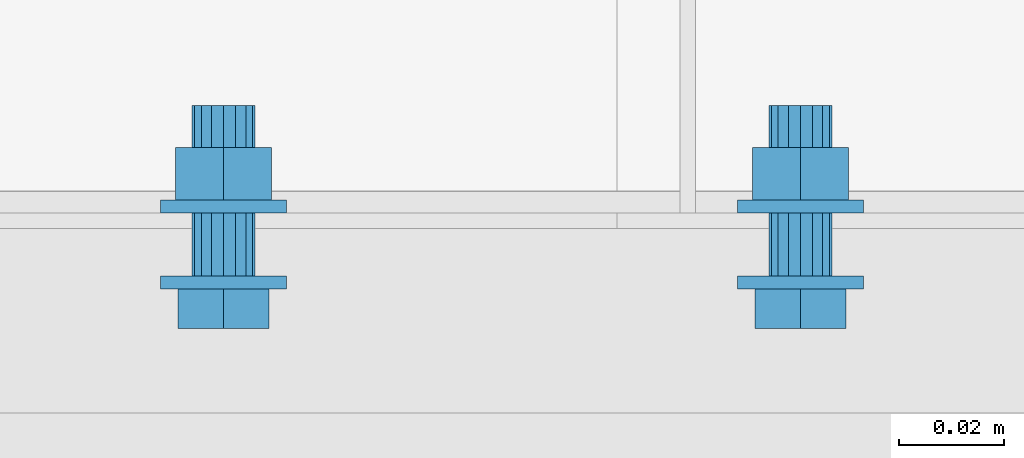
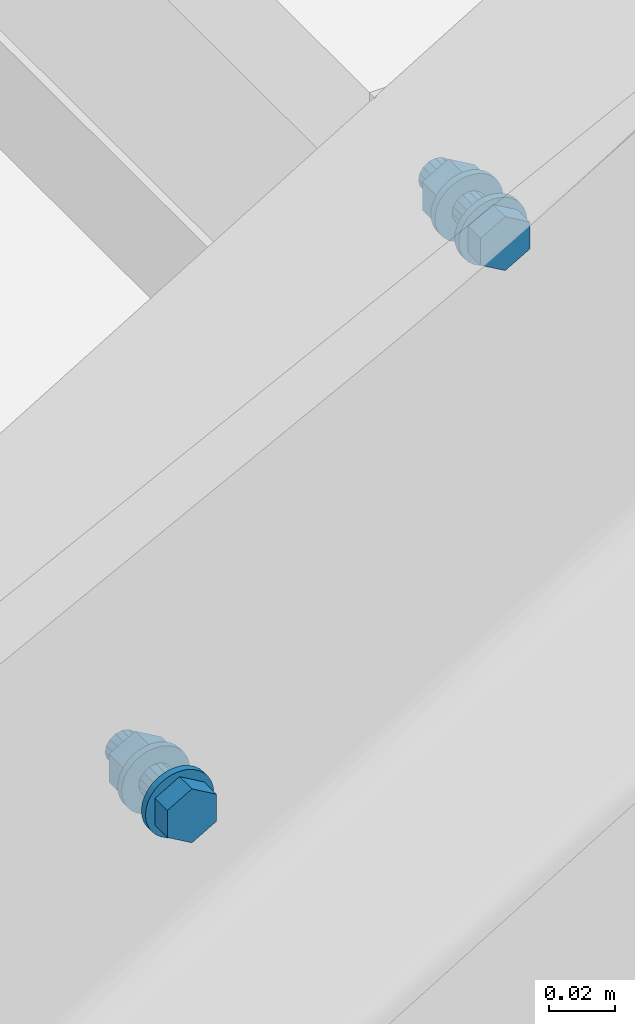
# One storey, part 268 of 410: 2 mechanical fasteners.
"""IFC2X3 building model written with IfcOpenShell, lengths in millimetres."""

from ifc_helpers import new_model, entity, si_unit, converted_unit, origin_with_axes, place, context, project, spatial, faceted_brep, element, save


model = new_model("IFC2X3")

# Units and contexts
model_context = context("Model", 3, precision=1e-09, world=origin_with_axes())
ifc_project = project(units=[si_unit("LENGTHUNIT", "METRE", prefix="MILLI"), si_unit("AREAUNIT", "SQUARE_METRE"), si_unit("VOLUMEUNIT", "CUBIC_METRE"), converted_unit("PLANEANGLEUNIT", "DEGREE", entity("IfcPlaneAngleMeasure", 0.01745329), si_unit("PLANEANGLEUNIT", "RADIAN"), dimensions=[0, 0, 0, 0, 0, 0, 0])], contexts=[model_context])

# Site, building, storey
site_placement = place(None, origin_with_axes())
site = spatial("IfcSite", under=ifc_project, at=site_placement, Name="mKR Teilneubau & Sanierung BA1 - Ostfildern", CompositionType="ELEMENT")
building_placement = place(site_placement, origin_with_axes())
building = spatial("IfcBuilding", under=site, at=building_placement, Name="Struktur 1", CompositionType="ELEMENT")
storey_placement = place(building_placement, origin_with_axes())
storey = spatial("IfcBuildingStorey", under=building, at=storey_placement, Name="Default Storey", CompositionType="ELEMENT", Elevation=0.0)

# Mechanical fasteners
mechanical_fastener_1_placement = place(None, origin_with_axes())
element("IfcMechanicalFastener", 1, at=mechanical_fastener_1_placement, inside=storey, ObjectType="Bolt", NominalDiameter=12.0, NominalLength=35.0, context=model_context, shape_type="Brep", body=[
    faceted_brep([(528.0, 15508.499999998, 1162.3913045), (528.0, 15510.999999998, 1162.3913045), (528.230576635, 15510.999999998, 1160.050220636), (528.230576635, 15508.499999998, 1160.050220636), (528.91344561, 15510.999999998, 1157.799103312), (528.91344561, 15508.499999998, 1157.799103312), (530.022364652, 15510.999999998, 1155.724461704), (530.022364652, 15508.499999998, 1155.724461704), (531.514718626, 15510.999999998, 1153.906023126), (531.514718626, 15508.499999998, 1153.906023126), (533.333157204, 15510.999999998, 1152.413669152), (533.333157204, 15508.499999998, 1152.413669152), (535.407798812, 15510.999999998, 1151.30475011), (535.407798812, 15508.499999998, 1151.30475011), (537.658916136, 15510.999999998, 1150.621881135), (537.658916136, 15508.499999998, 1150.621881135), (540.0, 15510.999999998, 1150.3913045), (540.0, 15508.499999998, 1150.3913045), (542.341083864, 15510.999999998, 1150.621881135), (542.341083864, 15508.499999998, 1150.621881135), (544.592201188, 15510.999999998, 1151.30475011), (544.592201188, 15508.499999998, 1151.30475011), (546.666842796, 15510.999999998, 1152.413669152), (546.666842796, 15508.499999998, 1152.413669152), (548.485281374, 15510.999999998, 1153.906023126), (548.485281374, 15508.499999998, 1153.906023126), (549.977635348, 15510.999999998, 1155.724461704), (549.977635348, 15508.499999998, 1155.724461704), (551.08655439, 15510.999999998, 1157.799103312), (551.08655439, 15508.499999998, 1157.799103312), (551.769423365, 15510.999999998, 1160.050220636), (551.769423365, 15508.499999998, 1160.050220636), (552.0, 15510.999999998, 1162.3913045), (552.0, 15508.499999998, 1162.3913045), (551.769423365, 15510.999999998, 1164.732388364), (551.769423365, 15508.499999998, 1164.732388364), (551.08655439, 15510.999999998, 1166.983505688), (551.08655439, 15508.499999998, 1166.983505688), (549.977635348, 15510.999999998, 1169.058147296), (549.977635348, 15508.499999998, 1169.058147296), (548.485281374, 15510.999999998, 1170.876585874), (548.485281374, 15508.499999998, 1170.876585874), (546.666842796, 15510.999999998, 1172.368939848), (546.666842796, 15508.499999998, 1172.368939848), (544.592201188, 15510.999999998, 1173.47785889), (544.592201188, 15508.499999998, 1173.47785889), (542.341083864, 15510.999999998, 1174.160727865), (542.341083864, 15508.499999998, 1174.160727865), (540.0, 15510.999999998, 1174.3913045), (540.0, 15508.499999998, 1174.3913045), (537.658916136, 15510.999999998, 1174.160727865), (537.658916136, 15508.499999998, 1174.160727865), (535.407798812, 15510.999999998, 1173.47785889), (535.407798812, 15508.499999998, 1173.47785889), (533.333157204, 15510.999999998, 1172.368939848), (533.333157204, 15508.499999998, 1172.368939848), (531.514718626, 15510.999999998, 1170.876585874), (531.514718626, 15508.499999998, 1170.876585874), (530.022364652, 15510.999999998, 1169.058147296), (530.022364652, 15508.499999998, 1169.058147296), (528.91344561, 15510.999999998, 1166.983505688), (528.91344561, 15508.499999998, 1166.983505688), (528.230576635, 15510.999999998, 1164.732388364), (528.230576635, 15508.499999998, 1164.732388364)], [[[0, 1, 2, 3]], [[3, 2, 4, 5]], [[5, 4, 6, 7]], [[7, 6, 8, 9]], [[9, 8, 10, 11]], [[11, 10, 12, 13]], [[13, 12, 14, 15]], [[15, 14, 16, 17]], [[17, 16, 18, 19]], [[19, 18, 20, 21]], [[21, 20, 22, 23]], [[23, 22, 24, 25]], [[25, 24, 26, 27]], [[27, 26, 28, 29]], [[29, 28, 30, 31]], [[31, 30, 32, 33]], [[33, 32, 34, 35]], [[35, 34, 36, 37]], [[37, 36, 38, 39]], [[39, 38, 40, 41]], [[41, 40, 42, 43]], [[43, 42, 44, 45]], [[45, 44, 46, 47]], [[47, 46, 48, 49]], [[49, 48, 50, 51]], [[51, 50, 52, 53]], [[53, 52, 54, 55]], [[55, 54, 56, 57]], [[57, 56, 58, 59]], [[59, 58, 60, 61]], [[61, 60, 62, 63]], [[63, 62, 1, 0]], [[0, 3, 5, 7, 9, 11, 13, 15, 17, 19, 21, 23, 25, 27, 29, 31, 33, 35, 37, 39, 41, 43, 45, 47, 49, 51, 53, 55, 57, 59, 61, 63]], [[1, 62, 60, 58, 56, 54, 52, 50, 48, 46, 44, 42, 40, 38, 36, 34, 32, 30, 28, 26, 24, 22, 20, 18, 16, 14, 12, 10, 8, 6, 4, 2]]]),
    faceted_brep([(548.673244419, 15508.499999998, 1157.3838045), (548.673244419, 15500.999999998, 1157.3838045), (540.0, 15500.999999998, 1152.3763045), (540.0, 15508.499999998, 1152.3763045), (531.326755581, 15500.999999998, 1157.3838045), (531.326755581, 15508.499999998, 1157.3838045), (531.326755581, 15500.999999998, 1167.3988045), (531.326755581, 15508.499999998, 1167.3988045), (540.0, 15500.999999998, 1172.4063045), (540.0, 15508.499999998, 1172.4063045), (548.673244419, 15500.999999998, 1167.3988045), (548.673244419, 15508.499999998, 1167.3988045)], [[[0, 1, 2, 3]], [[3, 2, 4, 5]], [[5, 4, 6, 7]], [[7, 6, 8, 9]], [[9, 8, 10, 11]], [[11, 10, 1, 0]], [[4, 2, 1, 10, 8, 6]], [[0, 3, 5, 7, 9, 11]]]),
    faceted_brep([(534.0, 15510.999999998, 1162.3913045), (534.0, 15522.999999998, 1162.3913045), (534.456722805, 15522.999999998, 1160.095203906), (534.456722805, 15510.999999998, 1160.095203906), (535.757359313, 15522.999999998, 1158.148663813), (535.757359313, 15510.999999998, 1158.148663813), (537.703899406, 15522.999999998, 1156.848027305), (537.703899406, 15510.999999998, 1156.848027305), (540.0, 15522.999999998, 1156.3913045), (540.0, 15510.999999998, 1156.3913045), (542.296100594, 15522.999999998, 1156.848027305), (542.296100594, 15510.999999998, 1156.848027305), (544.242640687, 15522.999999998, 1158.148663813), (544.242640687, 15510.999999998, 1158.148663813), (545.543277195, 15522.999999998, 1160.095203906), (545.543277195, 15510.999999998, 1160.095203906), (546.0, 15522.999999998, 1162.3913045), (546.0, 15510.999999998, 1162.3913045), (545.543277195, 15522.999999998, 1164.687405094), (545.543277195, 15510.999999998, 1164.687405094), (544.242640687, 15522.999999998, 1166.633945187), (544.242640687, 15510.999999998, 1166.633945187), (542.296100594, 15522.999999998, 1167.934581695), (542.296100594, 15510.999999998, 1167.934581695), (540.0, 15522.999999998, 1168.3913045), (540.0, 15510.999999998, 1168.3913045), (537.703899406, 15522.999999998, 1167.934581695), (537.703899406, 15510.999999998, 1167.934581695), (535.757359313, 15522.999999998, 1166.633945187), (535.757359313, 15510.999999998, 1166.633945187), (534.456722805, 15522.999999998, 1164.687405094), (534.456722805, 15510.999999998, 1164.687405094)], [[[0, 1, 2, 3]], [[3, 2, 4, 5]], [[5, 4, 6, 7]], [[7, 6, 8, 9]], [[9, 8, 10, 11]], [[11, 10, 12, 13]], [[13, 12, 14, 15]], [[15, 14, 16, 17]], [[17, 16, 18, 19]], [[19, 18, 20, 21]], [[21, 20, 22, 23]], [[23, 22, 24, 25]], [[25, 24, 26, 27]], [[27, 26, 28, 29]], [[29, 28, 30, 31]], [[31, 30, 1, 0]], [[0, 3, 5, 7, 9, 11, 13, 15, 17, 19, 21, 23, 25, 27, 29, 31]], [[1, 30, 28, 26, 24, 22, 20, 18, 16, 14, 12, 10, 8, 6, 4, 2]]]),
    faceted_brep([(528.0, 15522.999999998, 1162.3913045), (528.0, 15525.499999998, 1162.3913045), (528.230576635, 15525.499999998, 1160.050220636), (528.230576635, 15522.999999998, 1160.050220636), (528.91344561, 15525.499999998, 1157.799103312), (528.91344561, 15522.999999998, 1157.799103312), (530.022364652, 15525.499999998, 1155.724461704), (530.022364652, 15522.999999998, 1155.724461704), (531.514718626, 15525.499999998, 1153.906023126), (531.514718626, 15522.999999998, 1153.906023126), (533.333157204, 15525.499999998, 1152.413669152), (533.333157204, 15522.999999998, 1152.413669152), (535.407798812, 15525.499999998, 1151.30475011), (535.407798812, 15522.999999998, 1151.30475011), (537.658916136, 15525.499999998, 1150.621881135), (537.658916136, 15522.999999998, 1150.621881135), (540.0, 15525.499999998, 1150.3913045), (540.0, 15522.999999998, 1150.3913045), (542.341083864, 15525.499999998, 1150.621881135), (542.341083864, 15522.999999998, 1150.621881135), (544.592201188, 15525.499999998, 1151.30475011), (544.592201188, 15522.999999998, 1151.30475011), (546.666842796, 15525.499999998, 1152.413669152), (546.666842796, 15522.999999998, 1152.413669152), (548.485281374, 15525.499999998, 1153.906023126), (548.485281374, 15522.999999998, 1153.906023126), (549.977635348, 15525.499999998, 1155.724461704), (549.977635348, 15522.999999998, 1155.724461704), (551.08655439, 15525.499999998, 1157.799103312), (551.08655439, 15522.999999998, 1157.799103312), (551.769423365, 15525.499999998, 1160.050220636), (551.769423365, 15522.999999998, 1160.050220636), (552.0, 15525.499999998, 1162.3913045), (552.0, 15522.999999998, 1162.3913045), (551.769423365, 15525.499999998, 1164.732388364), (551.769423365, 15522.999999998, 1164.732388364), (551.08655439, 15525.499999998, 1166.983505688), (551.08655439, 15522.999999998, 1166.983505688), (549.977635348, 15525.499999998, 1169.058147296), (549.977635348, 15522.999999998, 1169.058147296), (548.485281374, 15525.499999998, 1170.876585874), (548.485281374, 15522.999999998, 1170.876585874), (546.666842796, 15525.499999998, 1172.368939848), (546.666842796, 15522.999999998, 1172.368939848), (544.592201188, 15525.499999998, 1173.47785889), (544.592201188, 15522.999999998, 1173.47785889), (542.341083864, 15525.499999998, 1174.160727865), (542.341083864, 15522.999999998, 1174.160727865), (540.0, 15525.499999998, 1174.3913045), (540.0, 15522.999999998, 1174.3913045), (537.658916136, 15525.499999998, 1174.160727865), (537.658916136, 15522.999999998, 1174.160727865), (535.407798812, 15525.499999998, 1173.47785889), (535.407798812, 15522.999999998, 1173.47785889), (533.333157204, 15525.499999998, 1172.368939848), (533.333157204, 15522.999999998, 1172.368939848), (531.514718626, 15525.499999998, 1170.876585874), (531.514718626, 15522.999999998, 1170.876585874), (530.022364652, 15525.499999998, 1169.058147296), (530.022364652, 15522.999999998, 1169.058147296), (528.91344561, 15525.499999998, 1166.983505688), (528.91344561, 15522.999999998, 1166.983505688), (528.230576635, 15525.499999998, 1164.732388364), (528.230576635, 15522.999999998, 1164.732388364)], [[[0, 1, 2, 3]], [[3, 2, 4, 5]], [[5, 4, 6, 7]], [[7, 6, 8, 9]], [[9, 8, 10, 11]], [[11, 10, 12, 13]], [[13, 12, 14, 15]], [[15, 14, 16, 17]], [[17, 16, 18, 19]], [[19, 18, 20, 21]], [[21, 20, 22, 23]], [[23, 22, 24, 25]], [[25, 24, 26, 27]], [[27, 26, 28, 29]], [[29, 28, 30, 31]], [[31, 30, 32, 33]], [[33, 32, 34, 35]], [[35, 34, 36, 37]], [[37, 36, 38, 39]], [[39, 38, 40, 41]], [[41, 40, 42, 43]], [[43, 42, 44, 45]], [[45, 44, 46, 47]], [[47, 46, 48, 49]], [[49, 48, 50, 51]], [[51, 50, 52, 53]], [[53, 52, 54, 55]], [[55, 54, 56, 57]], [[57, 56, 58, 59]], [[59, 58, 60, 61]], [[61, 60, 62, 63]], [[63, 62, 1, 0]], [[0, 3, 5, 7, 9, 11, 13, 15, 17, 19, 21, 23, 25, 27, 29, 31, 33, 35, 37, 39, 41, 43, 45, 47, 49, 51, 53, 55, 57, 59, 61, 63]], [[1, 62, 60, 58, 56, 54, 52, 50, 48, 46, 44, 42, 40, 38, 36, 34, 32, 30, 28, 26, 24, 22, 20, 18, 16, 14, 12, 10, 8, 6, 4, 2]]]),
    faceted_brep([(549.13656801, 15535.499999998, 1157.1163045), (549.13656801, 15525.499999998, 1157.1163045), (540.0, 15525.499999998, 1151.8413045), (540.0, 15535.499999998, 1151.8413045), (530.86343199, 15525.499999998, 1157.1163045), (530.86343199, 15535.499999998, 1157.1163045), (530.86343199, 15525.499999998, 1167.6663045), (530.86343199, 15535.499999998, 1167.6663045), (540.0, 15525.499999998, 1172.9413045), (540.0, 15535.499999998, 1172.9413045), (549.13656801, 15525.499999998, 1167.6663045), (549.13656801, 15535.499999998, 1167.6663045)], [[[0, 1, 2, 3]], [[3, 2, 4, 5]], [[5, 4, 6, 7]], [[7, 6, 8, 9]], [[9, 8, 10, 11]], [[11, 10, 1, 0]], [[4, 2, 1, 10, 8, 6]], [[0, 3, 5, 7, 9, 11]]]),
    faceted_brep([(534.0, 15535.499999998, 1162.3913045), (534.0, 15543.499999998, 1162.3913045), (534.456722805, 15543.499999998, 1160.095203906), (534.456722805, 15535.499999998, 1160.095203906), (535.757359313, 15543.499999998, 1158.148663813), (535.757359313, 15535.499999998, 1158.148663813), (537.703899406, 15543.499999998, 1156.848027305), (537.703899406, 15535.499999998, 1156.848027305), (540.0, 15543.499999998, 1156.3913045), (540.0, 15535.499999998, 1156.3913045), (542.296100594, 15543.499999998, 1156.848027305), (542.296100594, 15535.499999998, 1156.848027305), (544.242640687, 15543.499999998, 1158.148663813), (544.242640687, 15535.499999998, 1158.148663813), (545.543277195, 15543.499999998, 1160.095203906), (545.543277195, 15535.499999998, 1160.095203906), (546.0, 15543.499999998, 1162.3913045), (546.0, 15535.499999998, 1162.3913045), (545.543277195, 15543.499999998, 1164.687405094), (545.543277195, 15535.499999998, 1164.687405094), (544.242640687, 15543.499999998, 1166.633945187), (544.242640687, 15535.499999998, 1166.633945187), (542.296100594, 15543.499999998, 1167.934581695), (542.296100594, 15535.499999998, 1167.934581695), (540.0, 15543.499999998, 1168.3913045), (540.0, 15535.499999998, 1168.3913045), (537.703899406, 15543.499999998, 1167.934581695), (537.703899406, 15535.499999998, 1167.934581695), (535.757359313, 15543.499999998, 1166.633945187), (535.757359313, 15535.499999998, 1166.633945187), (534.456722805, 15543.499999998, 1164.687405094), (534.456722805, 15535.499999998, 1164.687405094)], [[[0, 1, 2, 3]], [[3, 2, 4, 5]], [[5, 4, 6, 7]], [[7, 6, 8, 9]], [[9, 8, 10, 11]], [[11, 10, 12, 13]], [[13, 12, 14, 15]], [[15, 14, 16, 17]], [[17, 16, 18, 19]], [[19, 18, 20, 21]], [[21, 20, 22, 23]], [[23, 22, 24, 25]], [[25, 24, 26, 27]], [[27, 26, 28, 29]], [[29, 28, 30, 31]], [[31, 30, 1, 0]], [[0, 3, 5, 7, 9, 11, 13, 15, 17, 19, 21, 23, 25, 27, 29, 31]], [[1, 30, 28, 26, 24, 22, 20, 18, 16, 14, 12, 10, 8, 6, 4, 2]]]),
])
mechanical_fastener_2_placement = place(None, origin_with_axes())
element("IfcMechanicalFastener", 2, at=mechanical_fastener_2_placement, inside=storey, ObjectType="Bolt", NominalDiameter=12.0, NominalLength=35.0, context=model_context, shape_type="Brep", body=[
    faceted_brep([(638.0, 15508.499999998, 1336.304348), (638.0, 15510.999999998, 1336.304348), (638.230576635, 15510.999999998, 1333.963264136), (638.230576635, 15508.499999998, 1333.963264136), (638.91344561, 15510.999999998, 1331.712146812), (638.91344561, 15508.499999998, 1331.712146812), (640.022364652, 15510.999999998, 1329.637505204), (640.022364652, 15508.499999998, 1329.637505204), (641.514718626, 15510.999999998, 1327.819066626), (641.514718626, 15508.499999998, 1327.819066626), (643.333157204, 15510.999999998, 1326.326712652), (643.333157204, 15508.499999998, 1326.326712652), (645.407798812, 15510.999999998, 1325.21779361), (645.407798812, 15508.499999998, 1325.21779361), (647.658916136, 15510.999999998, 1324.534924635), (647.658916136, 15508.499999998, 1324.534924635), (650.0, 15510.999999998, 1324.304348), (650.0, 15508.499999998, 1324.304348), (652.341083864, 15510.999999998, 1324.534924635), (652.341083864, 15508.499999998, 1324.534924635), (654.592201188, 15510.999999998, 1325.21779361), (654.592201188, 15508.499999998, 1325.21779361), (656.666842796, 15510.999999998, 1326.326712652), (656.666842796, 15508.499999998, 1326.326712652), (658.485281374, 15510.999999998, 1327.819066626), (658.485281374, 15508.499999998, 1327.819066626), (659.977635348, 15510.999999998, 1329.637505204), (659.977635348, 15508.499999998, 1329.637505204), (661.08655439, 15510.999999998, 1331.712146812), (661.08655439, 15508.499999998, 1331.712146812), (661.769423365, 15510.999999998, 1333.963264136), (661.769423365, 15508.499999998, 1333.963264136), (662.0, 15510.999999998, 1336.304348), (662.0, 15508.499999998, 1336.304348), (661.769423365, 15510.999999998, 1338.645431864), (661.769423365, 15508.499999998, 1338.645431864), (661.08655439, 15510.999999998, 1340.896549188), (661.08655439, 15508.499999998, 1340.896549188), (659.977635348, 15510.999999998, 1342.971190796), (659.977635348, 15508.499999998, 1342.971190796), (658.485281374, 15510.999999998, 1344.789629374), (658.485281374, 15508.499999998, 1344.789629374), (656.666842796, 15510.999999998, 1346.281983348), (656.666842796, 15508.499999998, 1346.281983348), (654.592201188, 15510.999999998, 1347.39090239), (654.592201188, 15508.499999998, 1347.39090239), (652.341083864, 15510.999999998, 1348.073771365), (652.341083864, 15508.499999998, 1348.073771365), (650.0, 15510.999999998, 1348.304348), (650.0, 15508.499999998, 1348.304348), (647.658916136, 15510.999999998, 1348.073771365), (647.658916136, 15508.499999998, 1348.073771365), (645.407798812, 15510.999999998, 1347.39090239), (645.407798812, 15508.499999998, 1347.39090239), (643.333157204, 15510.999999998, 1346.281983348), (643.333157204, 15508.499999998, 1346.281983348), (641.514718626, 15510.999999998, 1344.789629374), (641.514718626, 15508.499999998, 1344.789629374), (640.022364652, 15510.999999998, 1342.971190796), (640.022364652, 15508.499999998, 1342.971190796), (638.91344561, 15510.999999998, 1340.896549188), (638.91344561, 15508.499999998, 1340.896549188), (638.230576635, 15510.999999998, 1338.645431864), (638.230576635, 15508.499999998, 1338.645431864)], [[[0, 1, 2, 3]], [[3, 2, 4, 5]], [[5, 4, 6, 7]], [[7, 6, 8, 9]], [[9, 8, 10, 11]], [[11, 10, 12, 13]], [[13, 12, 14, 15]], [[15, 14, 16, 17]], [[17, 16, 18, 19]], [[19, 18, 20, 21]], [[21, 20, 22, 23]], [[23, 22, 24, 25]], [[25, 24, 26, 27]], [[27, 26, 28, 29]], [[29, 28, 30, 31]], [[31, 30, 32, 33]], [[33, 32, 34, 35]], [[35, 34, 36, 37]], [[37, 36, 38, 39]], [[39, 38, 40, 41]], [[41, 40, 42, 43]], [[43, 42, 44, 45]], [[45, 44, 46, 47]], [[47, 46, 48, 49]], [[49, 48, 50, 51]], [[51, 50, 52, 53]], [[53, 52, 54, 55]], [[55, 54, 56, 57]], [[57, 56, 58, 59]], [[59, 58, 60, 61]], [[61, 60, 62, 63]], [[63, 62, 1, 0]], [[0, 3, 5, 7, 9, 11, 13, 15, 17, 19, 21, 23, 25, 27, 29, 31, 33, 35, 37, 39, 41, 43, 45, 47, 49, 51, 53, 55, 57, 59, 61, 63]], [[1, 62, 60, 58, 56, 54, 52, 50, 48, 46, 44, 42, 40, 38, 36, 34, 32, 30, 28, 26, 24, 22, 20, 18, 16, 14, 12, 10, 8, 6, 4, 2]]]),
    faceted_brep([(658.673244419, 15508.499999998, 1331.296848), (658.673244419, 15500.999999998, 1331.296848), (650.0, 15500.999999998, 1326.289348), (650.0, 15508.499999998, 1326.289348), (641.326755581, 15500.999999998, 1331.296848), (641.326755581, 15508.499999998, 1331.296848), (641.326755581, 15500.999999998, 1341.311848), (641.326755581, 15508.499999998, 1341.311848), (650.0, 15500.999999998, 1346.319348), (650.0, 15508.499999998, 1346.319348), (658.673244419, 15500.999999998, 1341.311848), (658.673244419, 15508.499999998, 1341.311848)], [[[0, 1, 2, 3]], [[3, 2, 4, 5]], [[5, 4, 6, 7]], [[7, 6, 8, 9]], [[9, 8, 10, 11]], [[11, 10, 1, 0]], [[4, 2, 1, 10, 8, 6]], [[0, 3, 5, 7, 9, 11]]]),
    faceted_brep([(644.0, 15510.999999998, 1336.304348), (644.0, 15522.999999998, 1336.304348), (644.456722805, 15522.999999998, 1334.008247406), (644.456722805, 15510.999999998, 1334.008247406), (645.757359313, 15522.999999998, 1332.061707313), (645.757359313, 15510.999999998, 1332.061707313), (647.703899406, 15522.999999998, 1330.761070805), (647.703899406, 15510.999999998, 1330.761070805), (650.0, 15522.999999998, 1330.304348), (650.0, 15510.999999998, 1330.304348), (652.296100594, 15522.999999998, 1330.761070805), (652.296100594, 15510.999999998, 1330.761070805), (654.242640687, 15522.999999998, 1332.061707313), (654.242640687, 15510.999999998, 1332.061707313), (655.543277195, 15522.999999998, 1334.008247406), (655.543277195, 15510.999999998, 1334.008247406), (656.0, 15522.999999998, 1336.304348), (656.0, 15510.999999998, 1336.304348), (655.543277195, 15522.999999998, 1338.600448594), (655.543277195, 15510.999999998, 1338.600448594), (654.242640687, 15522.999999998, 1340.546988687), (654.242640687, 15510.999999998, 1340.546988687), (652.296100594, 15522.999999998, 1341.847625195), (652.296100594, 15510.999999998, 1341.847625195), (650.0, 15522.999999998, 1342.304348), (650.0, 15510.999999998, 1342.304348), (647.703899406, 15522.999999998, 1341.847625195), (647.703899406, 15510.999999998, 1341.847625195), (645.757359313, 15522.999999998, 1340.546988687), (645.757359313, 15510.999999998, 1340.546988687), (644.456722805, 15522.999999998, 1338.600448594), (644.456722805, 15510.999999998, 1338.600448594)], [[[0, 1, 2, 3]], [[3, 2, 4, 5]], [[5, 4, 6, 7]], [[7, 6, 8, 9]], [[9, 8, 10, 11]], [[11, 10, 12, 13]], [[13, 12, 14, 15]], [[15, 14, 16, 17]], [[17, 16, 18, 19]], [[19, 18, 20, 21]], [[21, 20, 22, 23]], [[23, 22, 24, 25]], [[25, 24, 26, 27]], [[27, 26, 28, 29]], [[29, 28, 30, 31]], [[31, 30, 1, 0]], [[0, 3, 5, 7, 9, 11, 13, 15, 17, 19, 21, 23, 25, 27, 29, 31]], [[1, 30, 28, 26, 24, 22, 20, 18, 16, 14, 12, 10, 8, 6, 4, 2]]]),
    faceted_brep([(638.0, 15522.999999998, 1336.304348), (638.0, 15525.499999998, 1336.304348), (638.230576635, 15525.499999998, 1333.963264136), (638.230576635, 15522.999999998, 1333.963264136), (638.91344561, 15525.499999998, 1331.712146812), (638.91344561, 15522.999999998, 1331.712146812), (640.022364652, 15525.499999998, 1329.637505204), (640.022364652, 15522.999999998, 1329.637505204), (641.514718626, 15525.499999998, 1327.819066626), (641.514718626, 15522.999999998, 1327.819066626), (643.333157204, 15525.499999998, 1326.326712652), (643.333157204, 15522.999999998, 1326.326712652), (645.407798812, 15525.499999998, 1325.21779361), (645.407798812, 15522.999999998, 1325.21779361), (647.658916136, 15525.499999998, 1324.534924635), (647.658916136, 15522.999999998, 1324.534924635), (650.0, 15525.499999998, 1324.304348), (650.0, 15522.999999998, 1324.304348), (652.341083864, 15525.499999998, 1324.534924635), (652.341083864, 15522.999999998, 1324.534924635), (654.592201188, 15525.499999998, 1325.21779361), (654.592201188, 15522.999999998, 1325.21779361), (656.666842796, 15525.499999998, 1326.326712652), (656.666842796, 15522.999999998, 1326.326712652), (658.485281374, 15525.499999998, 1327.819066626), (658.485281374, 15522.999999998, 1327.819066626), (659.977635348, 15525.499999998, 1329.637505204), (659.977635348, 15522.999999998, 1329.637505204), (661.08655439, 15525.499999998, 1331.712146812), (661.08655439, 15522.999999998, 1331.712146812), (661.769423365, 15525.499999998, 1333.963264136), (661.769423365, 15522.999999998, 1333.963264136), (662.0, 15525.499999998, 1336.304348), (662.0, 15522.999999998, 1336.304348), (661.769423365, 15525.499999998, 1338.645431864), (661.769423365, 15522.999999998, 1338.645431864), (661.08655439, 15525.499999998, 1340.896549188), (661.08655439, 15522.999999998, 1340.896549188), (659.977635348, 15525.499999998, 1342.971190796), (659.977635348, 15522.999999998, 1342.971190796), (658.485281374, 15525.499999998, 1344.789629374), (658.485281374, 15522.999999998, 1344.789629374), (656.666842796, 15525.499999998, 1346.281983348), (656.666842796, 15522.999999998, 1346.281983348), (654.592201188, 15525.499999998, 1347.39090239), (654.592201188, 15522.999999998, 1347.39090239), (652.341083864, 15525.499999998, 1348.073771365), (652.341083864, 15522.999999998, 1348.073771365), (650.0, 15525.499999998, 1348.304348), (650.0, 15522.999999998, 1348.304348), (647.658916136, 15525.499999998, 1348.073771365), (647.658916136, 15522.999999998, 1348.073771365), (645.407798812, 15525.499999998, 1347.39090239), (645.407798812, 15522.999999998, 1347.39090239), (643.333157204, 15525.499999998, 1346.281983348), (643.333157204, 15522.999999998, 1346.281983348), (641.514718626, 15525.499999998, 1344.789629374), (641.514718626, 15522.999999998, 1344.789629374), (640.022364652, 15525.499999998, 1342.971190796), (640.022364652, 15522.999999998, 1342.971190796), (638.91344561, 15525.499999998, 1340.896549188), (638.91344561, 15522.999999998, 1340.896549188), (638.230576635, 15525.499999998, 1338.645431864), (638.230576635, 15522.999999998, 1338.645431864)], [[[0, 1, 2, 3]], [[3, 2, 4, 5]], [[5, 4, 6, 7]], [[7, 6, 8, 9]], [[9, 8, 10, 11]], [[11, 10, 12, 13]], [[13, 12, 14, 15]], [[15, 14, 16, 17]], [[17, 16, 18, 19]], [[19, 18, 20, 21]], [[21, 20, 22, 23]], [[23, 22, 24, 25]], [[25, 24, 26, 27]], [[27, 26, 28, 29]], [[29, 28, 30, 31]], [[31, 30, 32, 33]], [[33, 32, 34, 35]], [[35, 34, 36, 37]], [[37, 36, 38, 39]], [[39, 38, 40, 41]], [[41, 40, 42, 43]], [[43, 42, 44, 45]], [[45, 44, 46, 47]], [[47, 46, 48, 49]], [[49, 48, 50, 51]], [[51, 50, 52, 53]], [[53, 52, 54, 55]], [[55, 54, 56, 57]], [[57, 56, 58, 59]], [[59, 58, 60, 61]], [[61, 60, 62, 63]], [[63, 62, 1, 0]], [[0, 3, 5, 7, 9, 11, 13, 15, 17, 19, 21, 23, 25, 27, 29, 31, 33, 35, 37, 39, 41, 43, 45, 47, 49, 51, 53, 55, 57, 59, 61, 63]], [[1, 62, 60, 58, 56, 54, 52, 50, 48, 46, 44, 42, 40, 38, 36, 34, 32, 30, 28, 26, 24, 22, 20, 18, 16, 14, 12, 10, 8, 6, 4, 2]]]),
    faceted_brep([(659.13656801, 15535.499999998, 1331.029348), (659.13656801, 15525.499999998, 1331.029348), (650.0, 15525.499999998, 1325.754348), (650.0, 15535.499999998, 1325.754348), (640.86343199, 15525.499999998, 1331.029348), (640.86343199, 15535.499999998, 1331.029348), (640.86343199, 15525.499999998, 1341.579348), (640.86343199, 15535.499999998, 1341.579348), (650.0, 15525.499999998, 1346.854348), (650.0, 15535.499999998, 1346.854348), (659.13656801, 15525.499999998, 1341.579348), (659.13656801, 15535.499999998, 1341.579348)], [[[0, 1, 2, 3]], [[3, 2, 4, 5]], [[5, 4, 6, 7]], [[7, 6, 8, 9]], [[9, 8, 10, 11]], [[11, 10, 1, 0]], [[4, 2, 1, 10, 8, 6]], [[0, 3, 5, 7, 9, 11]]]),
    faceted_brep([(644.0, 15535.499999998, 1336.304348), (644.0, 15543.499999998, 1336.304348), (644.456722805, 15543.499999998, 1334.008247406), (644.456722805, 15535.499999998, 1334.008247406), (645.757359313, 15543.499999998, 1332.061707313), (645.757359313, 15535.499999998, 1332.061707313), (647.703899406, 15543.499999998, 1330.761070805), (647.703899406, 15535.499999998, 1330.761070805), (650.0, 15543.499999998, 1330.304348), (650.0, 15535.499999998, 1330.304348), (652.296100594, 15543.499999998, 1330.761070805), (652.296100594, 15535.499999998, 1330.761070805), (654.242640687, 15543.499999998, 1332.061707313), (654.242640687, 15535.499999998, 1332.061707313), (655.543277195, 15543.499999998, 1334.008247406), (655.543277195, 15535.499999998, 1334.008247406), (656.0, 15543.499999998, 1336.304348), (656.0, 15535.499999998, 1336.304348), (655.543277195, 15543.499999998, 1338.600448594), (655.543277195, 15535.499999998, 1338.600448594), (654.242640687, 15543.499999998, 1340.546988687), (654.242640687, 15535.499999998, 1340.546988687), (652.296100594, 15543.499999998, 1341.847625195), (652.296100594, 15535.499999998, 1341.847625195), (650.0, 15543.499999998, 1342.304348), (650.0, 15535.499999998, 1342.304348), (647.703899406, 15543.499999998, 1341.847625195), (647.703899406, 15535.499999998, 1341.847625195), (645.757359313, 15543.499999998, 1340.546988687), (645.757359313, 15535.499999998, 1340.546988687), (644.456722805, 15543.499999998, 1338.600448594), (644.456722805, 15535.499999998, 1338.600448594)], [[[0, 1, 2, 3]], [[3, 2, 4, 5]], [[5, 4, 6, 7]], [[7, 6, 8, 9]], [[9, 8, 10, 11]], [[11, 10, 12, 13]], [[13, 12, 14, 15]], [[15, 14, 16, 17]], [[17, 16, 18, 19]], [[19, 18, 20, 21]], [[21, 20, 22, 23]], [[23, 22, 24, 25]], [[25, 24, 26, 27]], [[27, 26, 28, 29]], [[29, 28, 30, 31]], [[31, 30, 1, 0]], [[0, 3, 5, 7, 9, 11, 13, 15, 17, 19, 21, 23, 25, 27, 29, 31]], [[1, 30, 28, 26, 24, 22, 20, 18, 16, 14, 12, 10, 8, 6, 4, 2]]]),
])

save(model, "model.ifc")
